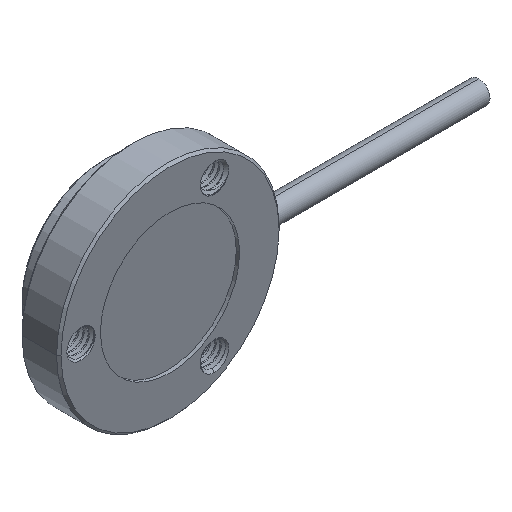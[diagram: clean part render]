
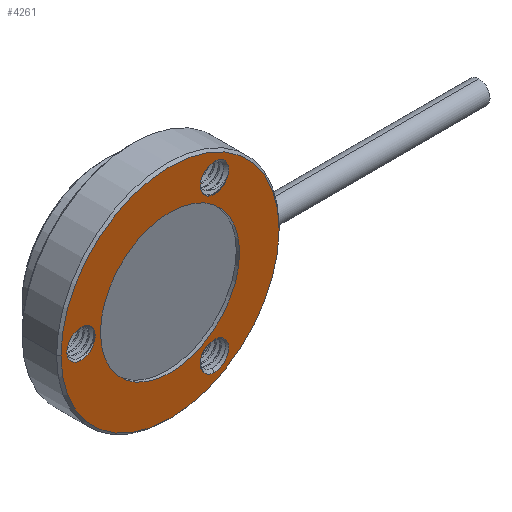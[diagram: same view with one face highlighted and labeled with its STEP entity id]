
A CAD part, isometric view. The second image highlights one B-rep face of the part: STEP entity #4261.
In plain terms, the highlighted planar face has unit normal (0, -1, 0).
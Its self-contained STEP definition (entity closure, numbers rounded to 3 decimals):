
#47 = DIRECTION ( 'NONE',  ( 0., 0., -1. ) ) ;
#111 = VERTEX_POINT ( 'NONE', #10039 ) ;
#112 = CARTESIAN_POINT ( 'NONE',  ( -8., -3., 0. ) ) ;
#226 = CIRCLE ( 'NONE', #8100, 1.275 ) ;
#237 = CIRCLE ( 'NONE', #746, 1.275 ) ;
#277 = VERTEX_POINT ( 'NONE', #1272 ) ;
#338 = EDGE_CURVE ( 'NONE', #277, #1347, #7250, .T. ) ;
#400 = FACE_BOUND ( 'NONE', #7480, .T. ) ;
#456 = CARTESIAN_POINT ( 'NONE',  ( -8., -3., 1.275 ) ) ;
#511 = FACE_BOUND ( 'NONE', #1765, .T. ) ;
#567 = CARTESIAN_POINT ( 'NONE',  ( 6.25, -3., 0. ) ) ;
#746 = AXIS2_PLACEMENT_3D ( 'NONE', #10566, #3255, #6502 ) ;
#792 = CARTESIAN_POINT ( 'NONE',  ( 0., -3., 0. ) ) ;
#817 = ORIENTED_EDGE ( 'NONE', *, *, #2026, .F. ) ;
#843 = VERTEX_POINT ( 'NONE', #3194 ) ;
#897 = CARTESIAN_POINT ( 'NONE',  ( 4., -3., -8.203 ) ) ;
#898 = CARTESIAN_POINT ( 'NONE',  ( 4., -3., 8.203 ) ) ;
#1125 = AXIS2_PLACEMENT_3D ( 'NONE', #4251, #7365, #47 ) ;
#1130 = EDGE_LOOP ( 'NONE', ( #817, #6422 ) ) ;
#1229 = DIRECTION ( 'NONE',  ( 0., -1., 0. ) ) ;
#1272 = CARTESIAN_POINT ( 'NONE',  ( 4., -3., -5.653 ) ) ;
#1306 = EDGE_CURVE ( 'NONE', #843, #4759, #6716, .T. ) ;
#1314 = DIRECTION ( 'NONE',  ( 1., 0., 0. ) ) ;
#1347 = VERTEX_POINT ( 'NONE', #897 ) ;
#1383 = EDGE_CURVE ( 'NONE', #7746, #8909, #237, .T. ) ;
#1479 = DIRECTION ( 'NONE',  ( 1., 0., 0. ) ) ;
#1646 = ORIENTED_EDGE ( 'NONE', *, *, #1306, .F. ) ;
#1765 = EDGE_LOOP ( 'NONE', ( #4318, #8850 ) ) ;
#1847 = DIRECTION ( 'NONE',  ( 0., -1., 0. ) ) ;
#2026 = EDGE_CURVE ( 'NONE', #1347, #277, #226, .T. ) ;
#2123 = AXIS2_PLACEMENT_3D ( 'NONE', #792, #9061, #4839 ) ;
#2222 = CARTESIAN_POINT ( 'NONE',  ( 0., -3., 0. ) ) ;
#2311 = VERTEX_POINT ( 'NONE', #3770 ) ;
#2359 = CARTESIAN_POINT ( 'NONE',  ( 0., -3., 0. ) ) ;
#2473 = AXIS2_PLACEMENT_3D ( 'NONE', #6220, #9318, #6806 ) ;
#2561 = CIRCLE ( 'NONE', #3251, 1.275 ) ;
#2647 = CARTESIAN_POINT ( 'NONE',  ( -8., -3., 0. ) ) ;
#2803 = CARTESIAN_POINT ( 'NONE',  ( 0., -3., 0. ) ) ;
#2885 = CIRCLE ( 'NONE', #10222, 6.25 ) ;
#2925 = DIRECTION ( 'NONE',  ( 0., -1., 0. ) ) ;
#3003 = EDGE_LOOP ( 'NONE', ( #9836, #6307 ) ) ;
#3194 = CARTESIAN_POINT ( 'NONE',  ( -6.25, -3., 0. ) ) ;
#3251 = AXIS2_PLACEMENT_3D ( 'NONE', #112, #3374, #8332 ) ;
#3255 = DIRECTION ( 'NONE',  ( 0., -1., 0. ) ) ;
#3374 = DIRECTION ( 'NONE',  ( 0., -1., 0. ) ) ;
#3756 = CIRCLE ( 'NONE', #7843, 9.8 ) ;
#3770 = CARTESIAN_POINT ( 'NONE',  ( 9.8, -3., 0. ) ) ;
#3775 = PLANE ( 'NONE',  #2473 ) ;
#4099 = ORIENTED_EDGE ( 'NONE', *, *, #8305, .T. ) ;
#4251 = CARTESIAN_POINT ( 'NONE',  ( 4., -3., 6.928 ) ) ;
#4261 = ADVANCED_FACE ( 'NONE', ( #10123, #400, #511, #9428, #6856 ), #3775, .T. ) ;
#4318 = ORIENTED_EDGE ( 'NONE', *, *, #5193, .F. ) ;
#4379 = VERTEX_POINT ( 'NONE', #456 ) ;
#4432 = EDGE_CURVE ( 'NONE', #4759, #843, #2885, .T. ) ;
#4671 = AXIS2_PLACEMENT_3D ( 'NONE', #5315, #2925, #6174 ) ;
#4759 = VERTEX_POINT ( 'NONE', #567 ) ;
#4839 = DIRECTION ( 'NONE',  ( 1., 0., 0. ) ) ;
#5193 = EDGE_CURVE ( 'NONE', #9235, #4379, #2561, .T. ) ;
#5293 = DIRECTION ( 'NONE',  ( 0., -1., 0. ) ) ;
#5315 = CARTESIAN_POINT ( 'NONE',  ( 4., -3., -6.928 ) ) ;
#5385 = DIRECTION ( 'NONE',  ( 0., 0., -1. ) ) ;
#5492 = DIRECTION ( 'NONE',  ( 1., 0., 0. ) ) ;
#5999 = DIRECTION ( 'NONE',  ( 0., -1., 0. ) ) ;
#6138 = ORIENTED_EDGE ( 'NONE', *, *, #7265, .T. ) ;
#6174 = DIRECTION ( 'NONE',  ( 0., 0., -1. ) ) ;
#6220 = CARTESIAN_POINT ( 'NONE',  ( 0., -3., 0. ) ) ;
#6307 = ORIENTED_EDGE ( 'NONE', *, *, #1383, .F. ) ;
#6422 = ORIENTED_EDGE ( 'NONE', *, *, #338, .F. ) ;
#6502 = DIRECTION ( 'NONE',  ( 0., 0., -1. ) ) ;
#6582 = CIRCLE ( 'NONE', #6751, 1.275 ) ;
#6716 = CIRCLE ( 'NONE', #2123, 6.25 ) ;
#6751 = AXIS2_PLACEMENT_3D ( 'NONE', #2647, #1847, #8457 ) ;
#6806 = DIRECTION ( 'NONE',  ( 1., 0., 0. ) ) ;
#6856 = FACE_BOUND ( 'NONE', #1130, .T. ) ;
#7104 = CARTESIAN_POINT ( 'NONE',  ( 4., -3., -6.928 ) ) ;
#7250 = CIRCLE ( 'NONE', #4671, 1.275 ) ;
#7265 = EDGE_CURVE ( 'NONE', #111, #2311, #3756, .T. ) ;
#7281 = EDGE_LOOP ( 'NONE', ( #6138, #4099 ) ) ;
#7365 = DIRECTION ( 'NONE',  ( 0., -1., 0. ) ) ;
#7480 = EDGE_LOOP ( 'NONE', ( #9598, #1646 ) ) ;
#7553 = CARTESIAN_POINT ( 'NONE',  ( 4., -3., 5.653 ) ) ;
#7606 = CIRCLE ( 'NONE', #8125, 9.8 ) ;
#7746 = VERTEX_POINT ( 'NONE', #898 ) ;
#7773 = EDGE_CURVE ( 'NONE', #4379, #9235, #6582, .T. ) ;
#7843 = AXIS2_PLACEMENT_3D ( 'NONE', #2359, #7957, #5492 ) ;
#7957 = DIRECTION ( 'NONE',  ( 0., -1., 0. ) ) ;
#8100 = AXIS2_PLACEMENT_3D ( 'NONE', #7104, #1229, #5385 ) ;
#8125 = AXIS2_PLACEMENT_3D ( 'NONE', #2222, #5293, #1479 ) ;
#8305 = EDGE_CURVE ( 'NONE', #2311, #111, #7606, .T. ) ;
#8332 = DIRECTION ( 'NONE',  ( 0., 0., -1. ) ) ;
#8457 = DIRECTION ( 'NONE',  ( 0., 0., -1. ) ) ;
#8850 = ORIENTED_EDGE ( 'NONE', *, *, #7773, .F. ) ;
#8909 = VERTEX_POINT ( 'NONE', #7553 ) ;
#9061 = DIRECTION ( 'NONE',  ( 0., -1., 0. ) ) ;
#9161 = EDGE_CURVE ( 'NONE', #8909, #7746, #10340, .T. ) ;
#9235 = VERTEX_POINT ( 'NONE', #10000 ) ;
#9318 = DIRECTION ( 'NONE',  ( 0., -1., 0. ) ) ;
#9428 = FACE_BOUND ( 'NONE', #3003, .T. ) ;
#9598 = ORIENTED_EDGE ( 'NONE', *, *, #4432, .F. ) ;
#9836 = ORIENTED_EDGE ( 'NONE', *, *, #9161, .F. ) ;
#10000 = CARTESIAN_POINT ( 'NONE',  ( -8., -3., -1.275 ) ) ;
#10039 = CARTESIAN_POINT ( 'NONE',  ( -9.8, -3., 0. ) ) ;
#10123 = FACE_OUTER_BOUND ( 'NONE', #7281, .T. ) ;
#10222 = AXIS2_PLACEMENT_3D ( 'NONE', #2803, #5999, #1314 ) ;
#10340 = CIRCLE ( 'NONE', #1125, 1.275 ) ;
#10566 = CARTESIAN_POINT ( 'NONE',  ( 4., -3., 6.928 ) ) ;
